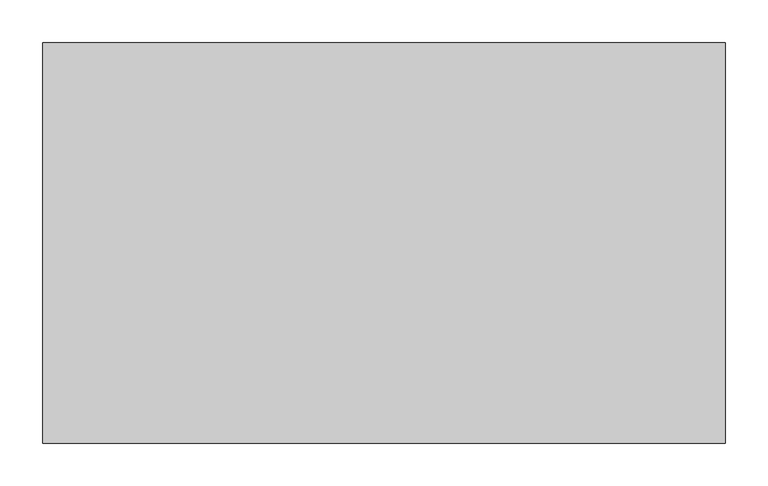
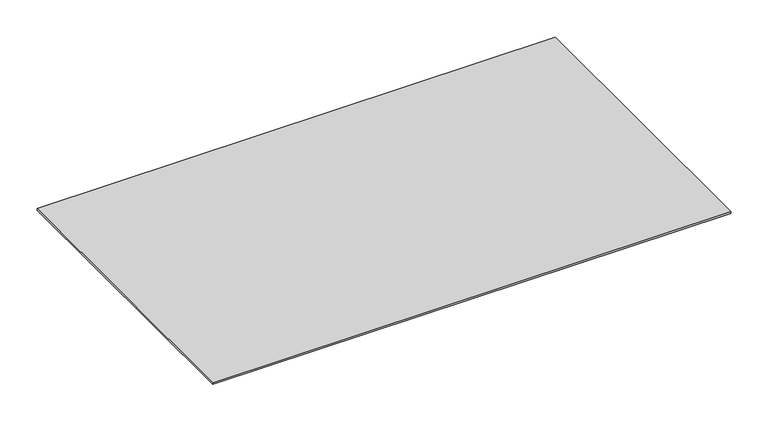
"""IFC4 building model written with IfcOpenShell, lengths in millimetres: proxy geometry, Electrical_Installation_Hager_Blank-Cover-BKA : Electrical_Installation_Hager_Blank-Cover-BKA."""

from ifc_helpers import new_model, si_unit, frame, origin, place, context, project, spatial, polyline, outline, extrude, source, transform, mapped, element, save


def electrical_fixtures_7e0d0abb(model_context):
    return source(origin(), model_context, "Body", "SweptSolid", [
        extrude(outline(polyline([(800.0, 234.75), (800.0, -234.75), (0.0, -234.75), (0.0, 234.75), (800.0, 234.75)])), frame((0.0, 0.0, 10.0), z_axis=(0.0, 0.0, 1.0), x_axis=(1.0, 0.0, 0.0)), (0.0, 0.0, 1.0), 3.0),
    ])


if __name__ == "__main__":
    model = new_model("IFC4")
    model_context = context("Model", 3, world=origin())
    ifc_project = project(units=[si_unit("LENGTHUNIT", "METRE", prefix="MILLI")], contexts=[model_context])
    site = spatial("IfcSite", under=ifc_project)
    building = spatial("IfcBuilding", under=site)
    placement = place(None, origin())
    electrical_fixtures_shape = electrical_fixtures_7e0d0abb(model_context)
    element("IfcBuildingElementProxy", 1, Name="Electrical_Installation_Hager_Blank-Cover-BKA : Electrical_Installation_Hager_Blank-Cover-BKA", ObjectType="Electrical_Installation_Hager_Blank-Cover-BKA : Electrical_Installation_Hager_Blank-Cover-BKA", at=placement, inside=building, context=model_context, shape_type="MappedRepresentation", body=[
        mapped(electrical_fixtures_shape, transform((0.0, 0.0, 0.0), x_axis=(1.0, 0.0, 0.0), y_axis=(0.0, 1.0, 0.0), z_axis=(0.0, 0.0, 1.0))),
    ])
    save(model, "model.ifc")
